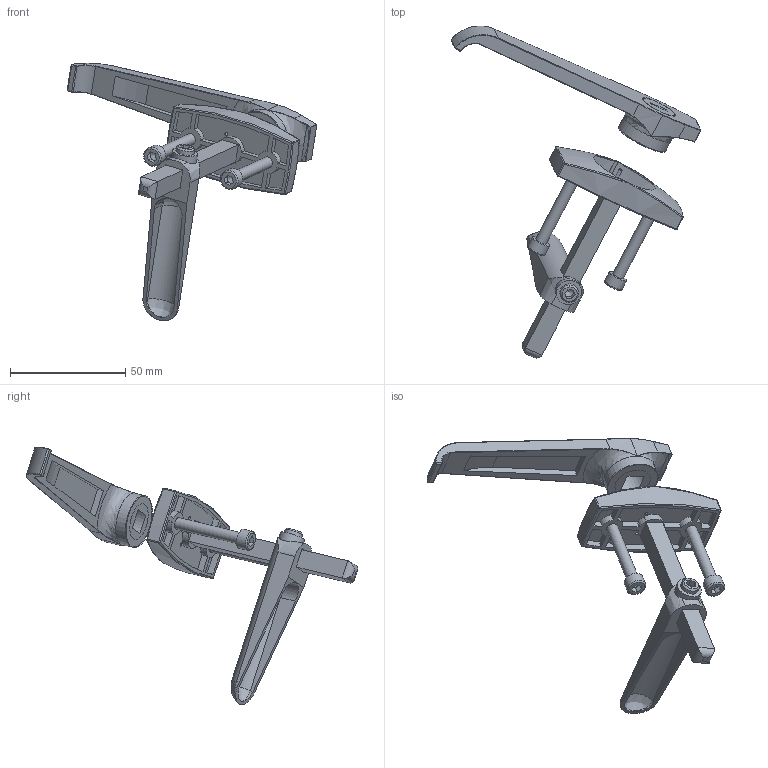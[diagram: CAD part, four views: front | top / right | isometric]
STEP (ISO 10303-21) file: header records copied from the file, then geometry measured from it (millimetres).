
FILE_DESCRIPTION(/* description */ ('Maniglia leva lunga con serratura profili 40-40 con viti'),/* implementation_level */ '2;1');
FILE_NAME(/* name */ 'C:\omnitec\Desktop\Maniglie e Cerniere\HHL40-40.stp',/* time_stamp */ '2021-02-19T14:49:03+01:00',/* author */ ('omnitec'),/* organization */ ('Microsoft'),/* preprocessor_version */ 'ST-DEVELOPER v18.1',/* originating_system */ 'Autodesk Inventor 2021',/* authorisation */ '');
FILE_SCHEMA (('AUTOMOTIVE_DESIGN { 1 0 10303 214 3 1 1 }'));
Length unit declared in the file: millimetre
Products named in the file (1): HHL40-40
Bounding box: 108.41 x 144.03 x 111.9 mm (x, y, z)
Surface area: 23124.6 mm2 (no closed solid volume)
Topology: 0 solids, 8 shells, 232 faces, 632 edges, 378 vertices
Faces by surface type: plane 87, cylinder 75, bspline 38, torus 14, sphere 11, cone 7
Full cylindrical faces by diameter (mm): 1.4 x2, 5 x2, 8 x1, 8.5 x2, 11 x1, 16 x1, 23 x1
Entity records: 10016 total; most frequent: CARTESIAN_POINT 4412, DIRECTION 1153, ORIENTED_EDGE 1106, EDGE_CURVE 610, AXIS2_PLACEMENT_3D 428, VERTEX_POINT 378, LINE 297, VECTOR 297
